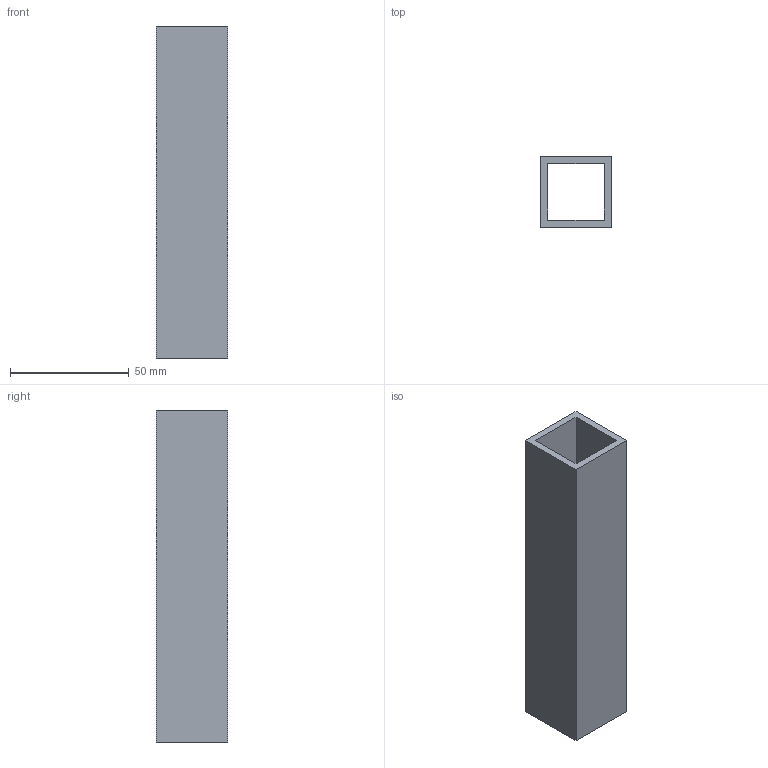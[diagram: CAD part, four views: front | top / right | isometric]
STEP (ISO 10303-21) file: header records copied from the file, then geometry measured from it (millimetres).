
FILE_DESCRIPTION(('Open CASCADE Model'),'2;1');
FILE_NAME('Open CASCADE Shape Model','2026-10-04T02:31:34',('Author'),( 'Open CASCADE'),'Open CASCADE STEP processor 8.0','Open CASCADE 8.0' ,'Unknown');
FILE_SCHEMA(('AUTOMOTIVE_DESIGN { 1 0 10303 214 1 1 1 1 }'));
Length unit declared in the file: millimetre
Products named in the file (1): Open CASCADE STEP translator 8.0 2
Bounding box: 30 x 30 x 140 mm (x, y, z)
Volume: 45360 mm3; surface area: 30888 mm2
Topology: 1 solids, 1 shells, 10 faces, 24 edges, 16 vertices
Faces by surface type: plane 10
Entity records: 598 total; most frequent: CARTESIAN_POINT 115, DIRECTION 78, LINE 56, VECTOR 56, ORIENTED_EDGE 48, PCURVE 48, DEFINITIONAL_REPRESENTATION 48, EDGE_CURVE 24
